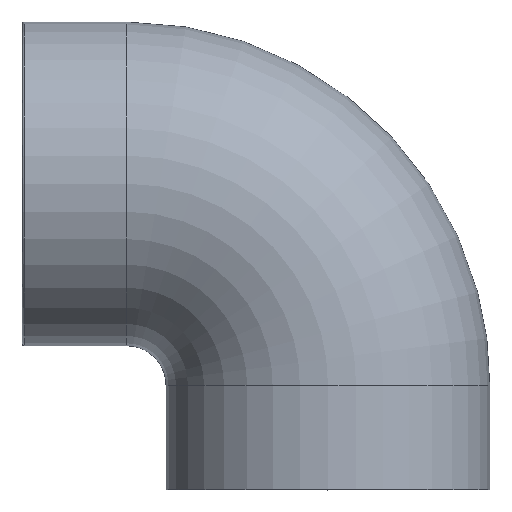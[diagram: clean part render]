
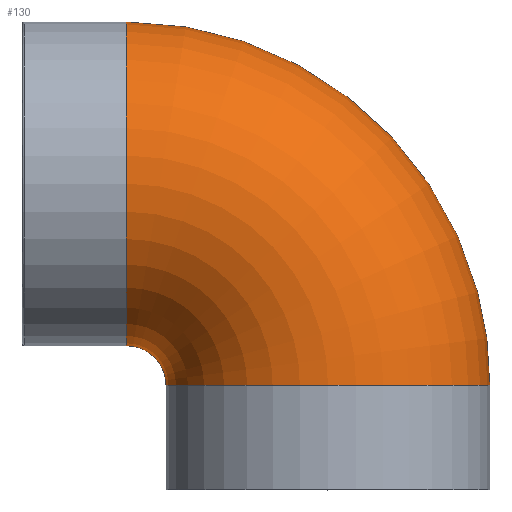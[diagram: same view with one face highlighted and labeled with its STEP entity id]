
A CAD part, top view. The second image highlights one B-rep face of the part: STEP entity #130.
In plain terms, the highlighted toroidal (fillet/blend) face has major radius 56 mm and minor radius 45 mm.
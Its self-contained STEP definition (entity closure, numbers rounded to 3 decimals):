
#28=FACE_BOUND('',#56,.T.);
#39=FACE_OUTER_BOUND('',#55,.T.);
#55=EDGE_LOOP('',(#110));
#56=EDGE_LOOP('',(#111));
#73=CIRCLE('',#150,45.);
#74=CIRCLE('',#151,45.);
#84=VERTEX_POINT('',#225);
#85=VERTEX_POINT('',#227);
#95=EDGE_CURVE('',#84,#84,#73,.T.);
#96=EDGE_CURVE('',#85,#85,#74,.T.);
#110=ORIENTED_EDGE('',*,*,#95,.T.);
#111=ORIENTED_EDGE('',*,*,#96,.T.);
#123=TOROIDAL_SURFACE('',#149,56.,45.);
#130=ADVANCED_FACE('',(#39,#28),#123,.T.);
#149=AXIS2_PLACEMENT_3D('',#224,#184,#185);
#150=AXIS2_PLACEMENT_3D('',#226,#186,#187);
#151=AXIS2_PLACEMENT_3D('',#228,#188,#189);
#184=DIRECTION('center_axis',(0.,0.,-1.));
#185=DIRECTION('ref_axis',(-1.,0.,0.));
#186=DIRECTION('center_axis',(0.,1.,0.));
#187=DIRECTION('ref_axis',(0.,0.,-1.));
#188=DIRECTION('center_axis',(1.,0.,0.));
#189=DIRECTION('ref_axis',(0.,0.,-1.));
#224=CARTESIAN_POINT('Origin',(-56.,-56.,0.));
#225=CARTESIAN_POINT('',(0.,-56.,45.));
#226=CARTESIAN_POINT('Origin',(0.,-56.,0.));
#227=CARTESIAN_POINT('',(-56.,0.,-45.));
#228=CARTESIAN_POINT('Origin',(-56.,0.,0.));
